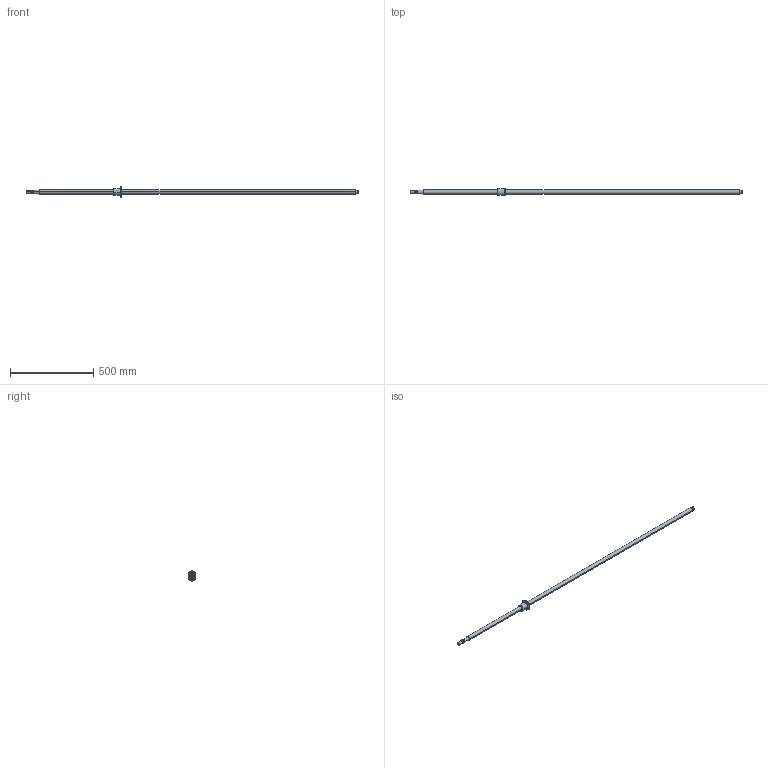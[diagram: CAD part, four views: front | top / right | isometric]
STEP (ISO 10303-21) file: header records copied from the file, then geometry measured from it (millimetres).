
FILE_DESCRIPTION (( 'STEP AP214' ), '1' );
FILE_NAME ('2.2132 SFU2505-2000mm.STEP', '2025-07-22T08:02:49', ( '' ), ( '' ), 'SwSTEP 2.0', 'SolidWorks 2024', '' );
FILE_SCHEMA (( 'AUTOMOTIVE_DESIGN' ));
Length unit declared in the file: millimetre
Products named in the file (3): 2.2132 SFU2505-2000mm; 2.3016 Kuularuuvimutteri SFU2505-4
Assembly tree (2 placements, depth 2):
  2.2132 SFU2505-2000mm
    2.2132 SFU2505-2000mm
    2.3016 Kuularuuvimutteri SFU2505-4
Bounding box: 2000 x 48 x 61.8 mm (x, y, z)
Volume: 996764.8 mm3; surface area: 173281.1 mm2
Topology: 3 solids, 3 shells, 121 faces, 306 edges, 200 vertices
Faces by surface type: cylinder 81, plane 22, cone 9, bspline 9
Entity records: 7267 total; most frequent: CARTESIAN_POINT 4395, ORIENTED_EDGE 612, DIRECTION 531, EDGE_CURVE 306, AXIS2_PLACEMENT_3D 210, VERTEX_POINT 200, EDGE_LOOP 146, ADVANCED_FACE 121
